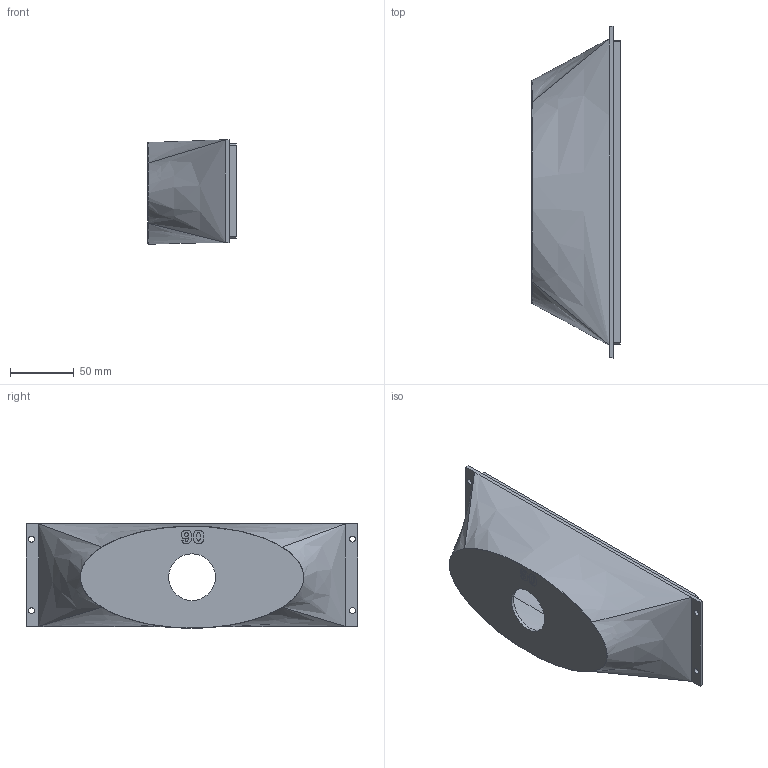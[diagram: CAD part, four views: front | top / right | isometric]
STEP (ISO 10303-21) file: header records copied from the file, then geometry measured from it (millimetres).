
FILE_DESCRIPTION(/* description */ (''),/* implementation_level */ '2;1');
FILE_NAME(/* name */ 'C:/Users/mcjor/3D Objects/6x17 Camera/6x24/624 90mm cone (easy to print).stp',/* time_stamp */ '2022-01-14T02:00:12+01:00',/* author */ (''),/* organization */ (''),/* preprocessor_version */ 'ST-DEVELOPER v15.2',/* originating_system */ 'Autodesk Translator Framework v2.0.0.5431',/* authorisation */ '');
FILE_SCHEMA (('AUTOMOTIVE_DESIGN { 1 0 10303 214 3 1 1 }'));
Length unit declared in the file: centimetre
Products named in the file (1): 90mm cone
Bounding box: 69.43 x 260 x 81.88 mm (x, y, z)
Volume: 147050.7 mm3; surface area: 101204.9 mm2
Topology: 1 solids, 1 shells, 94 faces, 262 edges, 176 vertices
Faces by surface type: bspline 60, plane 29, cylinder 5
Full cylindrical faces by diameter (mm): 4.639 x4, 36.6 x1
Entity records: 4114 total; most frequent: CARTESIAN_POINT 2087, ORIENTED_EDGE 514, EDGE_CURVE 257, DIRECTION 218, VERTEX_POINT 176, B_SPLINE_CURVE_WITH_KNOTS 127, EDGE_LOOP 115, LINE 112
